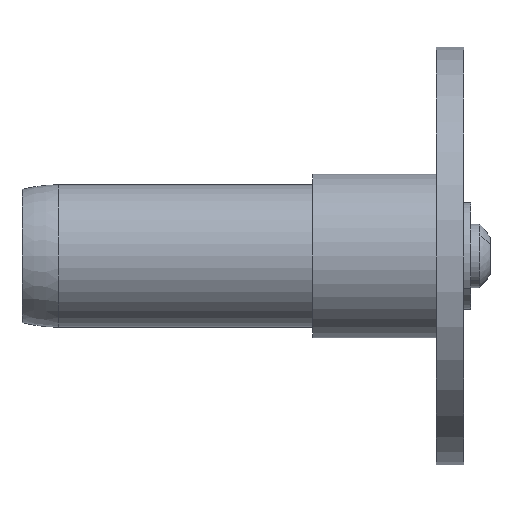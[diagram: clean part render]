
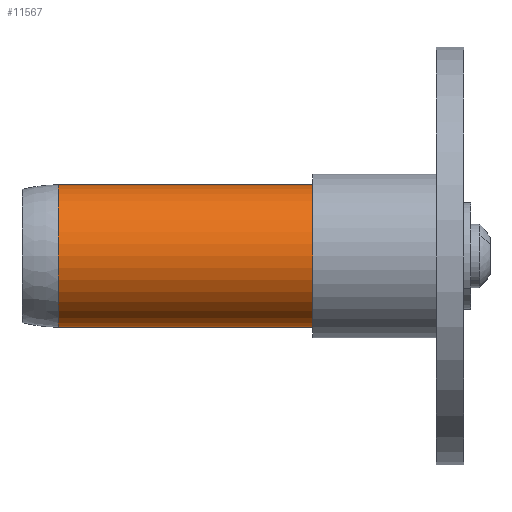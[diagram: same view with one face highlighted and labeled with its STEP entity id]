
A CAD part, front view. The second image highlights one B-rep face of the part: STEP entity #11567.
In plain terms, the highlighted cylindrical face has radius 12.446 mm (diameter 24.892 mm), a partial arc.
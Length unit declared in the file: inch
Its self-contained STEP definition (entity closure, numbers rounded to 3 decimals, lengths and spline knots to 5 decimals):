
#68 = DIRECTION ( 'NONE',  ( 0., 0., 1. ) ) ;
#801 = ORIENTED_EDGE ( 'NONE', *, *, #2066, .F. ) ;
#1508 = EDGE_CURVE ( 'NONE', #3686, #2059, #13571, .T. ) ;
#1712 = ORIENTED_EDGE ( 'NONE', *, *, #1508, .T. ) ;
#1824 = FACE_OUTER_BOUND ( 'NONE', #8891, .T. ) ;
#1894 = DIRECTION ( 'NONE',  ( -1., 0., 0. ) ) ;
#1960 = DIRECTION ( 'NONE',  ( -1., 0., 0. ) ) ;
#2058 = AXIS2_PLACEMENT_3D ( 'NONE', #9698, #11875, #68 ) ;
#2059 = VERTEX_POINT ( 'NONE', #2875 ) ;
#2066 = EDGE_CURVE ( 'NONE', #5093, #12325, #7847, .T. ) ;
#2652 = DIRECTION ( 'NONE',  ( -1., 0., 0. ) ) ;
#2875 = CARTESIAN_POINT ( 'NONE',  ( -2., 0., 0.49 ) ) ;
#3668 = AXIS2_PLACEMENT_3D ( 'NONE', #8322, #1894, #9401 ) ;
#3686 = VERTEX_POINT ( 'NONE', #5028 ) ;
#4584 = EDGE_CURVE ( 'NONE', #12325, #2059, #10832, .T. ) ;
#5013 = VECTOR ( 'NONE', #1960, 39.37008 ) ;
#5028 = CARTESIAN_POINT ( 'NONE',  ( -0.25, 0., 0.49 ) ) ;
#5093 = VERTEX_POINT ( 'NONE', #5625 ) ;
#5392 = CARTESIAN_POINT ( 'NONE',  ( -2.25, 0., -0.49 ) ) ;
#5625 = CARTESIAN_POINT ( 'NONE',  ( -0.25, 0., -0.49 ) ) ;
#7315 = ORIENTED_EDGE ( 'NONE', *, *, #13588, .T. ) ;
#7847 = LINE ( 'NONE', #5392, #10360 ) ;
#8322 = CARTESIAN_POINT ( 'NONE',  ( -0.25, 0., 0. ) ) ;
#8891 = EDGE_LOOP ( 'NONE', ( #801, #7315, #1712, #11740 ) ) ;
#9283 = CARTESIAN_POINT ( 'NONE',  ( -2.25, 0., 0. ) ) ;
#9326 = DIRECTION ( 'NONE',  ( 0., 0., 1. ) ) ;
#9401 = DIRECTION ( 'NONE',  ( 0., 0., 1. ) ) ;
#9698 = CARTESIAN_POINT ( 'NONE',  ( -2., 0., 0. ) ) ;
#10360 = VECTOR ( 'NONE', #13441, 39.37008 ) ;
#10415 = CARTESIAN_POINT ( 'NONE',  ( -2.25, 0., 0.49 ) ) ;
#10468 = CARTESIAN_POINT ( 'NONE',  ( -2., 0., -0.49 ) ) ;
#10832 = CIRCLE ( 'NONE', #2058, 0.49 ) ;
#11559 = CYLINDRICAL_SURFACE ( 'NONE', #13658, 0.49 ) ;
#11567 = ADVANCED_FACE ( 'NONE', ( #1824 ), #11559, .T. ) ;
#11740 = ORIENTED_EDGE ( 'NONE', *, *, #4584, .F. ) ;
#11875 = DIRECTION ( 'NONE',  ( -1., 0., 0. ) ) ;
#11956 = CIRCLE ( 'NONE', #3668, 0.49 ) ;
#12325 = VERTEX_POINT ( 'NONE', #10468 ) ;
#13441 = DIRECTION ( 'NONE',  ( -1., 0., 0. ) ) ;
#13571 = LINE ( 'NONE', #10415, #5013 ) ;
#13588 = EDGE_CURVE ( 'NONE', #5093, #3686, #11956, .T. ) ;
#13658 = AXIS2_PLACEMENT_3D ( 'NONE', #9283, #2652, #9326 ) ;
